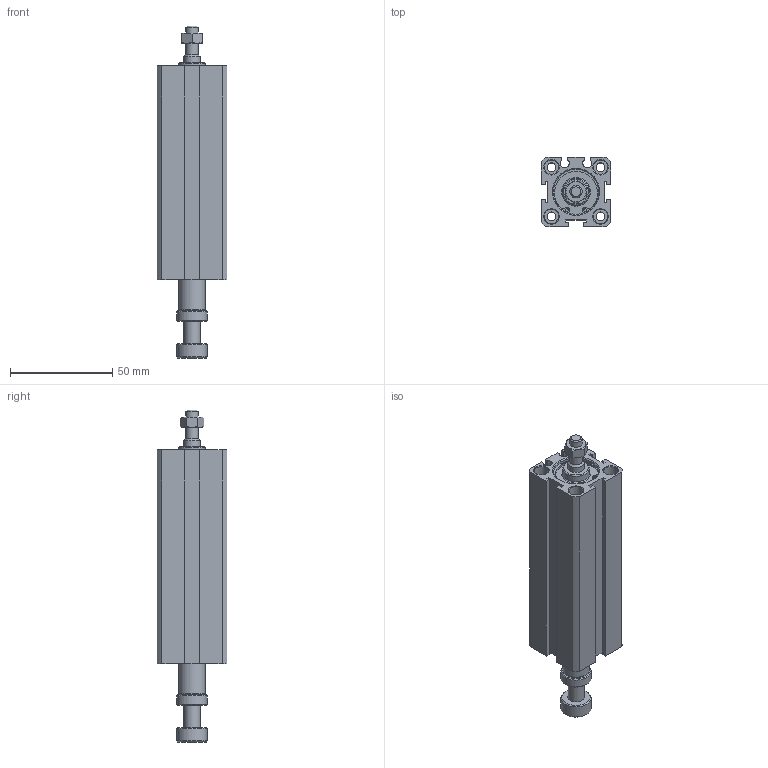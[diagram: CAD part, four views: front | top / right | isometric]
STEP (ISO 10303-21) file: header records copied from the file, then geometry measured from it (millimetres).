
FILE_DESCRIPTION((''),'2;1');
FILE_NAME('I:\3D電子目錄\氣缸\JDAR\JDAR-B\JDAR20-B\JDAR20x85-B.stp','2007-03-14T13:19:35',('662F206'),(''),'Autodesk Inventor 11','Autodesk Inventor 11','');
FILE_SCHEMA(('AUTOMOTIVE_DESIGN { 1 0 10303 214 1 1 1 1 }'));
Length unit declared in the file: millimetre
Products named in the file (3): JDAR20-B; R 形環 23
Assembly tree (3 placements, depth 2):
  JDAR20-B
    JDAR20-B
    R 形環 23  x2
Bounding box: 34 x 34 x 162.3 mm (x, y, z)
Volume: 104602.4 mm3; surface area: 31773.8 mm2
Topology: 3 solids, 3 shells, 152 faces, 341 edges, 221 vertices
Faces by surface type: plane 74, cylinder 50, cone 20, bspline 6, torus 2
Full cylindrical faces by diameter (mm): 1.5 x6, 4.3 x4, 6 x2, 7 x8, 8 x2, 13 x2, 15 x2, 22 x4, 23.2 x2
Entity records: 3749 total; most frequent: CARTESIAN_POINT 742, DIRECTION 628, ORIENTED_EDGE 498, AXIS2_PLACEMENT_3D 251, EDGE_CURVE 249, EDGE_LOOP 234, VERTEX_POINT 195, FACE_OUTER_BOUND 140
